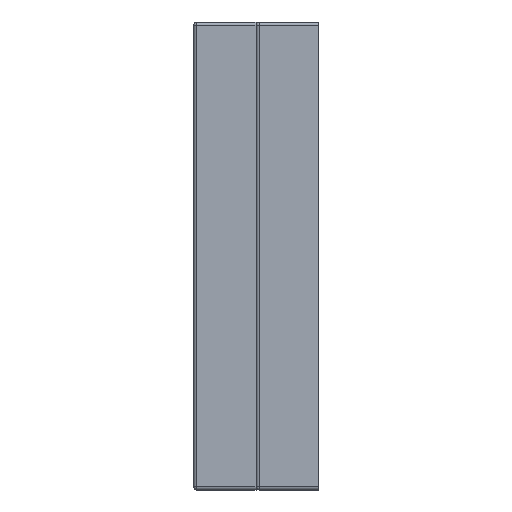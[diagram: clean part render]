
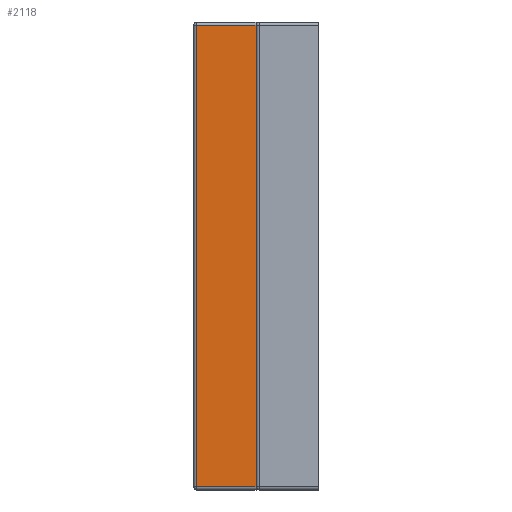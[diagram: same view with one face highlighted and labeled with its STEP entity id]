
A CAD part, left-side view. The second image highlights one B-rep face of the part: STEP entity #2118.
In plain terms, the highlighted planar face has unit normal (-1, 0, 0).
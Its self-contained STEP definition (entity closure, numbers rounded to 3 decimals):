
#245 = EDGE_CURVE ( 'NONE', #1291, #1260, #1383, .T. ) ;
#246 = CARTESIAN_POINT ( 'NONE',  ( -300.806, 421.452, 753.28 ) ) ;
#287 = AXIS2_PLACEMENT_3D ( 'NONE', #688, #1593, #2504 ) ;
#334 = LINE ( 'NONE', #558, #2341 ) ;
#382 = VERTEX_POINT ( 'NONE', #1461 ) ;
#525 = VECTOR ( 'NONE', #883, 1000. ) ;
#558 = CARTESIAN_POINT ( 'NONE',  ( -300.806, 416.452, 13.28 ) ) ;
#688 = CARTESIAN_POINT ( 'NONE',  ( -300.806, 421.452, 8.28 ) ) ;
#745 = CARTESIAN_POINT ( 'NONE',  ( -300.806, 321.452, 753.28 ) ) ;
#883 = DIRECTION ( 'NONE',  ( 0., -1., 0. ) ) ;
#1061 = EDGE_CURVE ( 'NONE', #382, #1291, #2484, .T. ) ;
#1071 = CARTESIAN_POINT ( 'NONE',  ( -300.806, 416.452, 13.28 ) ) ;
#1187 = FACE_OUTER_BOUND ( 'NONE', #2243, .T. ) ;
#1260 = VERTEX_POINT ( 'NONE', #1895 ) ;
#1279 = EDGE_CURVE ( 'NONE', #1260, #2571, #334, .T. ) ;
#1291 = VERTEX_POINT ( 'NONE', #745 ) ;
#1325 = LINE ( 'NONE', #2295, #525 ) ;
#1383 = LINE ( 'NONE', #246, #2042 ) ;
#1397 = ORIENTED_EDGE ( 'NONE', *, *, #1061, .T. ) ;
#1461 = CARTESIAN_POINT ( 'NONE',  ( -300.806, 321.452, 13.28 ) ) ;
#1474 = VECTOR ( 'NONE', #1553, 1000. ) ;
#1553 = DIRECTION ( 'NONE',  ( 0., 0., 1. ) ) ;
#1593 = DIRECTION ( 'NONE',  ( 1., 0., 0. ) ) ;
#1755 = ORIENTED_EDGE ( 'NONE', *, *, #1857, .T. ) ;
#1819 = PLANE ( 'NONE',  #287 ) ;
#1857 = EDGE_CURVE ( 'NONE', #2571, #382, #1325, .T. ) ;
#1895 = CARTESIAN_POINT ( 'NONE',  ( -300.806, 416.452, 753.28 ) ) ;
#1915 = ORIENTED_EDGE ( 'NONE', *, *, #1279, .T. ) ;
#2034 = ORIENTED_EDGE ( 'NONE', *, *, #245, .T. ) ;
#2042 = VECTOR ( 'NONE', #2090, 1000. ) ;
#2090 = DIRECTION ( 'NONE',  ( 0., 1., 0. ) ) ;
#2109 = DIRECTION ( 'NONE',  ( 0., 0., -1. ) ) ;
#2118 = ADVANCED_FACE ( 'NONE', ( #1187 ), #1819, .F. ) ;
#2219 = CARTESIAN_POINT ( 'NONE',  ( -300.806, 321.452, 8.28 ) ) ;
#2243 = EDGE_LOOP ( 'NONE', ( #2034, #1915, #1755, #1397 ) ) ;
#2295 = CARTESIAN_POINT ( 'NONE',  ( -300.806, 421.452, 13.28 ) ) ;
#2341 = VECTOR ( 'NONE', #2109, 1000. ) ;
#2484 = LINE ( 'NONE', #2219, #1474 ) ;
#2504 = DIRECTION ( 'NONE',  ( 0., 0., -1. ) ) ;
#2571 = VERTEX_POINT ( 'NONE', #1071 ) ;
